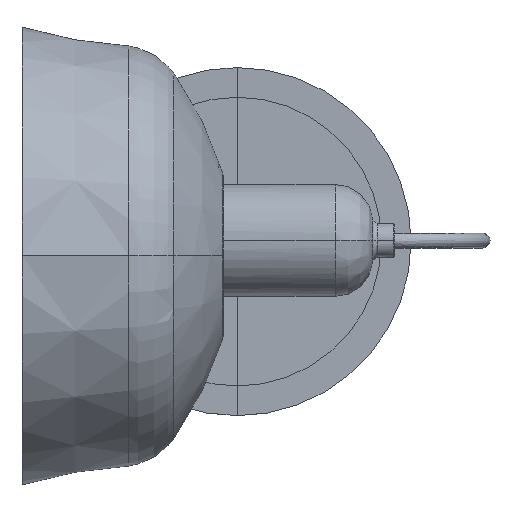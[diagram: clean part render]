
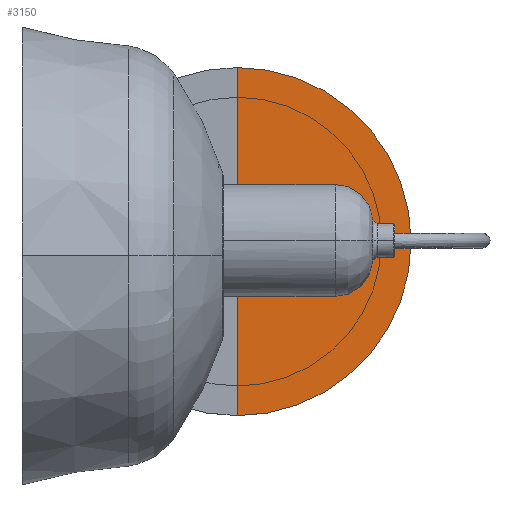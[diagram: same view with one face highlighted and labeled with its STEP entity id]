
A CAD part, top view. The second image highlights one B-rep face of the part: STEP entity #3150.
In plain terms, the highlighted planar face has unit normal (0, 0, 1).
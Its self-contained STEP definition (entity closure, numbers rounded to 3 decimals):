
#257=CIRCLE('',#3425,70.);
#455=LINE('',#7830,#684);
#684=VECTOR('',#4104,304.8);
#852=PLANE('',#3431);
#1007=FACE_OUTER_BOUND('',#1203,.T.);
#1203=EDGE_LOOP('',(#2633,#2634));
#1512=VERTEX_POINT('',#7805);
#1513=VERTEX_POINT('',#7807);
#1901=EDGE_CURVE('',#1512,#1513,#257,.T.);
#1910=EDGE_CURVE('',#1513,#1512,#455,.T.);
#2633=ORIENTED_EDGE('',*,*,#1901,.T.);
#2634=ORIENTED_EDGE('',*,*,#1910,.T.);
#3150=ADVANCED_FACE('',(#1007),#852,.F.);
#3425=AXIS2_PLACEMENT_3D('',#7812,#4084,#4085);
#3431=AXIS2_PLACEMENT_3D('',#7831,#4105,#4106);
#4084=DIRECTION('center_axis',(0.,0.,
1.));
#4085=DIRECTION('ref_axis',(0.,-1.,0.));
#4104=DIRECTION('',(0.,1.,0.));
#4105=DIRECTION('center_axis',(0.,0.,
-1.));
#4106=DIRECTION('ref_axis',(0.,-1.,0.));
#7805=CARTESIAN_POINT('',(0.,70.,20.6));
#7807=CARTESIAN_POINT('',(0.,-70.,20.6));
#7812=CARTESIAN_POINT('Origin',(0.,0.,
20.6));
#7830=CARTESIAN_POINT('',(0.,-70.,20.6));
#7831=CARTESIAN_POINT('Origin',(0.,0.,
20.6));
